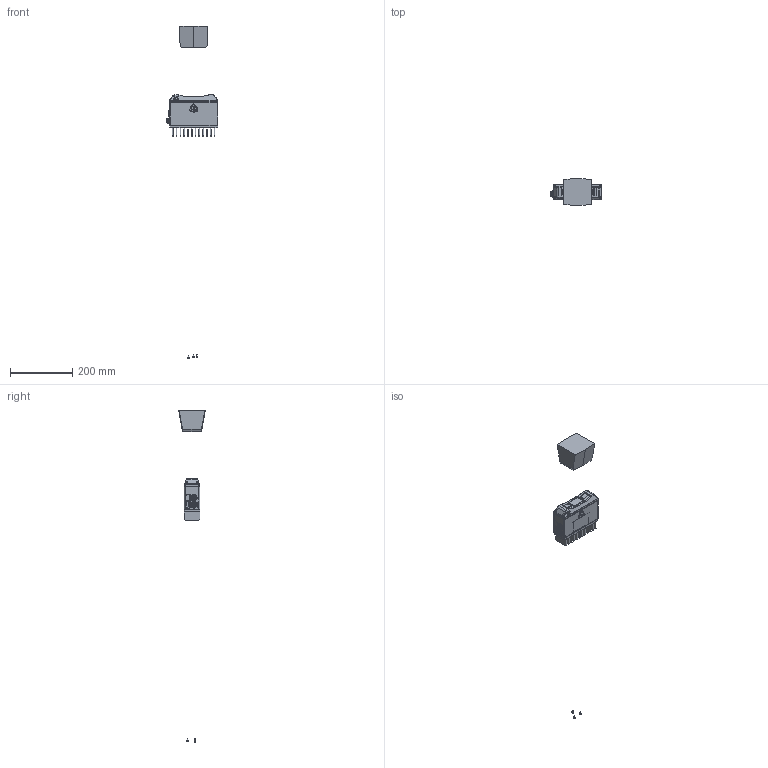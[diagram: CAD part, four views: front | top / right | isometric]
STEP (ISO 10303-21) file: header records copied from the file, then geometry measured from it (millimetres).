
FILE_DESCRIPTION (( 'STEP AP214' ), '1' );
FILE_NAME ('-1.0_DSN_HDI-109 with FOV.STEP', '2014-06-05T21:14:03', ( '' ), ( '' ), 'SwSTEP 2.0', 'SolidWorks 2014', '' );
FILE_SCHEMA (( 'AUTOMOTIVE_DESIGN' ));
Length unit declared in the file: millimetre
Products named in the file (9): 131683-1.1-Filter, Optical, Interference, 465, 20nm, 21x16mm, unmounted; socket head cap screw_am_B18.3.1M - 3 x 0.5 x 6 Hex SHCS -- 6NHX; 131887-1.0_WINDOW_41.6mm_x_25.6mm_2mm_N-BK7_AR_AR_465nm_AS FINSIHED; FOV-HDI109; -1.0_DSN_HDI-109 with FOV; 131895-1.0-Heatsink_HDI109; 131881-1.3-HOUSING_HDI_109_Rear_Machined_140mm clearance distance; 131884-1.2_HOUSING_HDI_109_Front_Machined_140mm clearance distance; AD16_Simplified
Assembly tree (11 placements, depth 2):
  -1.0_DSN_HDI-109 with FOV
    131881-1.3-HOUSING_HDI_109_Rear_Machined_140mm clearance distance
    131884-1.2_HOUSING_HDI_109_Front_Machined_140mm clearance distance
    AD16_Simplified
    131683-1.1-Filter, Optical, Interference, 465, 20nm, 21x16mm, unmounted  x2
    131887-1.0_WINDOW_41.6mm_x_25.6mm_2mm_N-BK7_AR_AR_465nm_AS FINSIHED
    131895-1.0-Heatsink_HDI109
    socket head cap screw_am_B18.3.1M - 3 x 0.5 x 6 Hex SHCS -- 6NHX  x3
    FOV-HDI109
Bounding box: 165.77 x 85.6 x 1067.37 mm (x, y, z)
Volume: 773038.7 mm3; surface area: 205128.6 mm2
Topology: 32 solids, 32 shells, 1647 faces, 4362 edges, 2893 vertices
Faces by surface type: plane 838, cylinder 432, bspline 264, cone 97, sphere 8, torus 8
Entity records: 66194 total; most frequent: CARTESIAN_POINT 23722, ORIENTED_EDGE 8308, DIRECTION 7112, EDGE_CURVE 4154, VERTEX_POINT 2811, LINE 2590, VECTOR 2590, AXIS2_PLACEMENT_3D 2261
